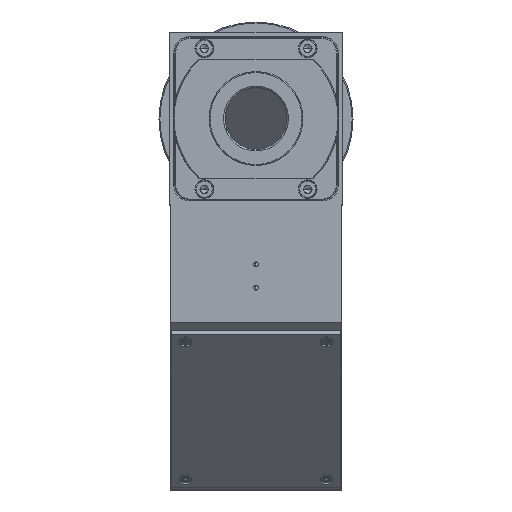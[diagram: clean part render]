
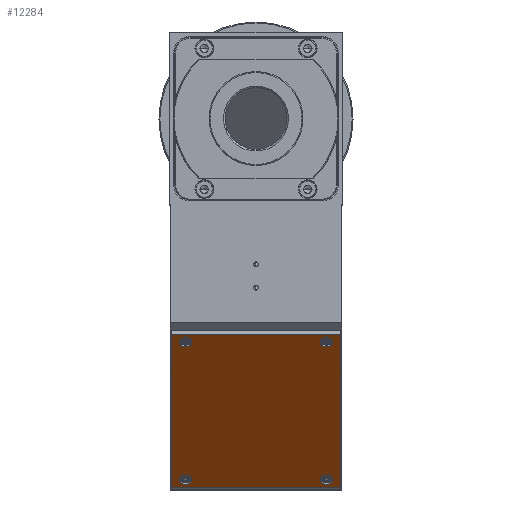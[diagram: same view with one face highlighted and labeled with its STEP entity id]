
A CAD part, top view. The second image highlights one B-rep face of the part: STEP entity #12284.
In plain terms, the highlighted planar face has unit normal (0, -0.707, 0.707).
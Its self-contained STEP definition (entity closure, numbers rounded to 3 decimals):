
#49 = EDGE_CURVE ( 'NONE', #30167, #13621, #25341, .T. ) ;
#141 = VECTOR ( 'NONE', #4174, 1000. ) ;
#229 = VERTEX_POINT ( 'NONE', #8952 ) ;
#263 = AXIS2_PLACEMENT_3D ( 'NONE', #23598, #18501, #1159 ) ;
#592 = CARTESIAN_POINT ( 'NONE',  ( -27., -69.003, -47.931 ) ) ;
#880 = DIRECTION ( 'NONE',  ( 1., 0., 0. ) ) ;
#1159 = DIRECTION ( 'NONE',  ( 1., 0., 0. ) ) ;
#1404 = CARTESIAN_POINT ( 'NONE',  ( 24.5, -71.477, -50.406 ) ) ;
#1517 = EDGE_CURVE ( 'NONE', #7542, #4112, #10718, .T. ) ;
#1713 = LINE ( 'NONE', #14449, #141 ) ;
#1847 = EDGE_CURVE ( 'NONE', #27327, #26001, #1713, .T. ) ;
#2294 = EDGE_CURVE ( 'NONE', #13621, #30167, #27541, .T. ) ;
#2951 = FACE_BOUND ( 'NONE', #15614, .T. ) ;
#3465 = VERTEX_POINT ( 'NONE', #592 ) ;
#4112 = VERTEX_POINT ( 'NONE', #21510 ) ;
#4174 = DIRECTION ( 'NONE',  ( 0., 0.707, 0.707 ) ) ;
#4351 = DIRECTION ( 'NONE',  ( 1., 0., 0. ) ) ;
#4364 = DIRECTION ( 'NONE',  ( 0., -0.707, 0.707 ) ) ;
#4407 = DIRECTION ( 'NONE',  ( -1., 0., 0. ) ) ;
#4640 = DIRECTION ( 'NONE',  ( 1., 0., 0. ) ) ;
#5079 = ORIENTED_EDGE ( 'NONE', *, *, #25608, .F. ) ;
#6552 = DIRECTION ( 'NONE',  ( 1., 0., 0. ) ) ;
#7128 = AXIS2_PLACEMENT_3D ( 'NONE', #30035, #4364, #14334 ) ;
#7531 = DIRECTION ( 'NONE',  ( 1., 0., 0. ) ) ;
#7542 = VERTEX_POINT ( 'NONE', #15135 ) ;
#7673 = CIRCLE ( 'NONE', #7128, 2. ) ;
#8126 = AXIS2_PLACEMENT_3D ( 'NONE', #26797, #17124, #4351 ) ;
#8368 = ORIENTED_EDGE ( 'NONE', *, *, #19349, .T. ) ;
#8501 = PLANE ( 'NONE',  #263 ) ;
#8751 = ORIENTED_EDGE ( 'NONE', *, *, #9219, .F. ) ;
#8952 = CARTESIAN_POINT ( 'NONE',  ( -24.5, -71.477, -50.406 ) ) ;
#9122 = CARTESIAN_POINT ( 'NONE',  ( 22.5, -115.318, -94.247 ) ) ;
#9219 = EDGE_CURVE ( 'NONE', #4112, #7542, #7673, .T. ) ;
#9826 = CARTESIAN_POINT ( 'NONE',  ( 22.5, -71.477, -50.406 ) ) ;
#10157 = CARTESIAN_POINT ( 'NONE',  ( -27., -117.793, -96.722 ) ) ;
#10213 = CIRCLE ( 'NONE', #22279, 2. ) ;
#10437 = CARTESIAN_POINT ( 'NONE',  ( -27., -69.003, -47.931 ) ) ;
#10463 = ORIENTED_EDGE ( 'NONE', *, *, #1517, .F. ) ;
#10695 = ORIENTED_EDGE ( 'NONE', *, *, #18206, .F. ) ;
#10718 = CIRCLE ( 'NONE', #8126, 2. ) ;
#10933 = LINE ( 'NONE', #10437, #17774 ) ;
#11675 = DIRECTION ( 'NONE',  ( 0., -0.707, 0.707 ) ) ;
#12236 = ORIENTED_EDGE ( 'NONE', *, *, #20258, .F. ) ;
#12284 = ADVANCED_FACE ( 'NONE', ( #22945, #28483, #30915, #2951, #13575 ), #8501, .T. ) ;
#12332 = AXIS2_PLACEMENT_3D ( 'NONE', #9122, #19129, #19306 ) ;
#12522 = AXIS2_PLACEMENT_3D ( 'NONE', #9826, #27217, #7531 ) ;
#12870 = ORIENTED_EDGE ( 'NONE', *, *, #2294, .F. ) ;
#13461 = DIRECTION ( 'NONE',  ( 0., -0.707, 0.707 ) ) ;
#13575 = FACE_OUTER_BOUND ( 'NONE', #27659, .T. ) ;
#13621 = VERTEX_POINT ( 'NONE', #29030 ) ;
#13788 = CARTESIAN_POINT ( 'NONE',  ( 22.5, -71.477, -50.406 ) ) ;
#13916 = DIRECTION ( 'NONE',  ( 0., -0.707, 0.707 ) ) ;
#14071 = CARTESIAN_POINT ( 'NONE',  ( -27., -69.003, -47.931 ) ) ;
#14334 = DIRECTION ( 'NONE',  ( 1., 0., 0. ) ) ;
#14449 = CARTESIAN_POINT ( 'NONE',  ( 27., -69.003, -47.931 ) ) ;
#14957 = CARTESIAN_POINT ( 'NONE',  ( 27., -69.003, -47.931 ) ) ;
#15135 = CARTESIAN_POINT ( 'NONE',  ( -20.5, -115.318, -94.247 ) ) ;
#15614 = EDGE_LOOP ( 'NONE', ( #10463, #8751 ) ) ;
#16213 = ORIENTED_EDGE ( 'NONE', *, *, #49, .F. ) ;
#16241 = CARTESIAN_POINT ( 'NONE',  ( -22.5, -71.477, -50.406 ) ) ;
#17124 = DIRECTION ( 'NONE',  ( 0., -0.707, 0.707 ) ) ;
#17774 = VECTOR ( 'NONE', #23403, 1000. ) ;
#17982 = CARTESIAN_POINT ( 'NONE',  ( 24.5, -115.318, -94.247 ) ) ;
#18127 = CARTESIAN_POINT ( 'NONE',  ( 27., -117.793, -96.722 ) ) ;
#18206 = EDGE_CURVE ( 'NONE', #229, #23528, #29159, .T. ) ;
#18355 = VERTEX_POINT ( 'NONE', #27748 ) ;
#18501 = DIRECTION ( 'NONE',  ( 0., -0.707, 0.707 ) ) ;
#18938 = EDGE_LOOP ( 'NONE', ( #16213, #12870 ) ) ;
#18969 = VERTEX_POINT ( 'NONE', #20989 ) ;
#19129 = DIRECTION ( 'NONE',  ( 0., -0.707, 0.707 ) ) ;
#19306 = DIRECTION ( 'NONE',  ( 1., 0., 0. ) ) ;
#19349 = EDGE_CURVE ( 'NONE', #18355, #27327, #27084, .T. ) ;
#19735 = VECTOR ( 'NONE', #4640, 1000. ) ;
#20258 = EDGE_CURVE ( 'NONE', #18969, #31754, #26061, .T. ) ;
#20385 = ORIENTED_EDGE ( 'NONE', *, *, #30193, .T. ) ;
#20675 = VECTOR ( 'NONE', #4407, 1000. ) ;
#20989 = CARTESIAN_POINT ( 'NONE',  ( 20.5, -71.477, -50.406 ) ) ;
#21510 = CARTESIAN_POINT ( 'NONE',  ( -24.5, -115.318, -94.247 ) ) ;
#21695 = DIRECTION ( 'NONE',  ( 1., 0., 0. ) ) ;
#21927 = EDGE_CURVE ( 'NONE', #31754, #18969, #26685, .T. ) ;
#22279 = AXIS2_PLACEMENT_3D ( 'NONE', #16241, #13916, #6552 ) ;
#22945 = FACE_BOUND ( 'NONE', #26636, .T. ) ;
#23384 = EDGE_CURVE ( 'NONE', #26001, #3465, #24097, .T. ) ;
#23403 = DIRECTION ( 'NONE',  ( 0., -0.707, -0.707 ) ) ;
#23436 = AXIS2_PLACEMENT_3D ( 'NONE', #13788, #13461, #880 ) ;
#23528 = VERTEX_POINT ( 'NONE', #29773 ) ;
#23598 = CARTESIAN_POINT ( 'NONE',  ( 0., -93.398, -72.327 ) ) ;
#23961 = AXIS2_PLACEMENT_3D ( 'NONE', #26630, #11675, #21695 ) ;
#24097 = LINE ( 'NONE', #14071, #20675 ) ;
#25049 = EDGE_LOOP ( 'NONE', ( #31080, #12236 ) ) ;
#25273 = ORIENTED_EDGE ( 'NONE', *, *, #1847, .T. ) ;
#25341 = CIRCLE ( 'NONE', #26403, 2. ) ;
#25608 = EDGE_CURVE ( 'NONE', #23528, #229, #10213, .T. ) ;
#26001 = VERTEX_POINT ( 'NONE', #14957 ) ;
#26061 = CIRCLE ( 'NONE', #23436, 2. ) ;
#26179 = CARTESIAN_POINT ( 'NONE',  ( 22.5, -115.318, -94.247 ) ) ;
#26403 = AXIS2_PLACEMENT_3D ( 'NONE', #26179, #31194, #30709 ) ;
#26630 = CARTESIAN_POINT ( 'NONE',  ( -22.5, -71.477, -50.406 ) ) ;
#26636 = EDGE_LOOP ( 'NONE', ( #5079, #10695 ) ) ;
#26685 = CIRCLE ( 'NONE', #12522, 2. ) ;
#26797 = CARTESIAN_POINT ( 'NONE',  ( -22.5, -115.318, -94.247 ) ) ;
#27084 = LINE ( 'NONE', #10157, #19735 ) ;
#27217 = DIRECTION ( 'NONE',  ( 0., -0.707, 0.707 ) ) ;
#27327 = VERTEX_POINT ( 'NONE', #18127 ) ;
#27541 = CIRCLE ( 'NONE', #12332, 2. ) ;
#27659 = EDGE_LOOP ( 'NONE', ( #20385, #8368, #25273, #31038 ) ) ;
#27748 = CARTESIAN_POINT ( 'NONE',  ( -27., -117.793, -96.722 ) ) ;
#28483 = FACE_BOUND ( 'NONE', #25049, .T. ) ;
#29030 = CARTESIAN_POINT ( 'NONE',  ( 20.5, -115.318, -94.247 ) ) ;
#29159 = CIRCLE ( 'NONE', #23961, 2. ) ;
#29773 = CARTESIAN_POINT ( 'NONE',  ( -20.5, -71.477, -50.406 ) ) ;
#30035 = CARTESIAN_POINT ( 'NONE',  ( -22.5, -115.318, -94.247 ) ) ;
#30167 = VERTEX_POINT ( 'NONE', #17982 ) ;
#30193 = EDGE_CURVE ( 'NONE', #3465, #18355, #10933, .T. ) ;
#30709 = DIRECTION ( 'NONE',  ( 1., 0., 0. ) ) ;
#30915 = FACE_BOUND ( 'NONE', #18938, .T. ) ;
#31038 = ORIENTED_EDGE ( 'NONE', *, *, #23384, .T. ) ;
#31080 = ORIENTED_EDGE ( 'NONE', *, *, #21927, .F. ) ;
#31194 = DIRECTION ( 'NONE',  ( 0., -0.707, 0.707 ) ) ;
#31754 = VERTEX_POINT ( 'NONE', #1404 ) ;
